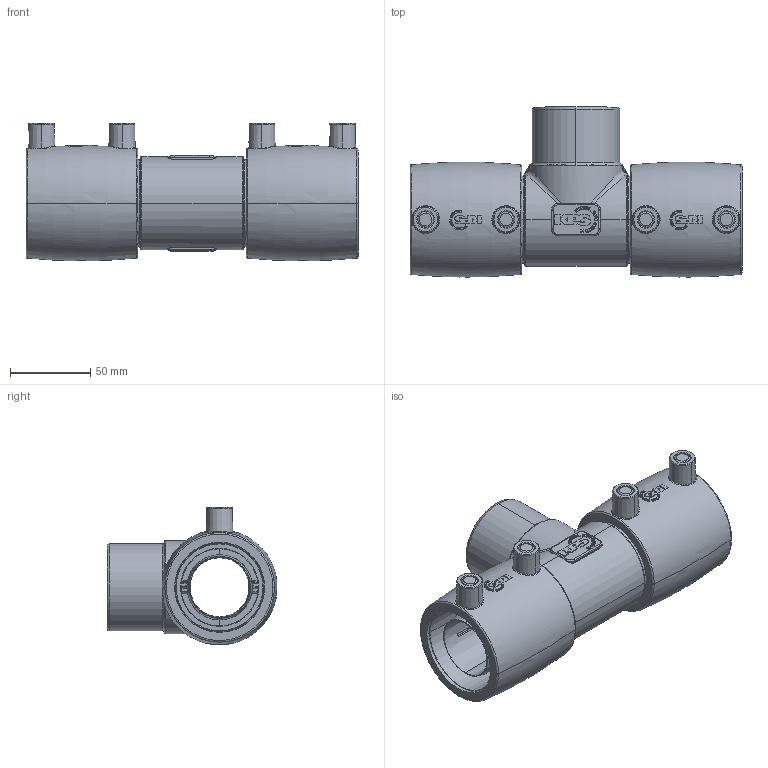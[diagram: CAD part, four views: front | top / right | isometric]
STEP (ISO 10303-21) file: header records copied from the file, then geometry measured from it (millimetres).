
FILE_DESCRIPTION (( 'STEP AP214' ), '1' );
FILE_NAME ('KP_8_54EC.STEP', '2022-04-28T07:29:21', ( '' ), ( '' ), 'SwSTEP 2.0', 'SolidWorks 2022', '' );
FILE_SCHEMA (( 'AUTOMOTIVE_DESIGN' ));
Length unit declared in the file: millimetre
Products named in the file (4): KP_8-54EC; KP_2-54; KP_8_54EC; KP CC-54 PE100
Assembly tree (5 placements, depth 2):
  KP_8_54EC
    KP_8-54EC
    KP_2-54  x2
    KP CC-54 PE100  x2
Bounding box: 206.4 x 105.67 x 85.53 mm (x, y, z)
Volume: 436356.6 mm3; surface area: 211538.9 mm2
Topology: 5 solids, 7 shells, 2855 faces, 7271 edges, 4619 vertices
Faces by surface type: plane 1070, bspline 894, cylinder 466, cone 220, torus 205
Entity records: 78615 total; most frequent: CARTESIAN_POINT 32938, ORIENTED_EDGE 8838, DIRECTION 6012, EDGE_CURVE 4419, VERTEX_POINT 2813, AXIS2_PLACEMENT_3D 2030, VECTOR 1952, LINE 1952
